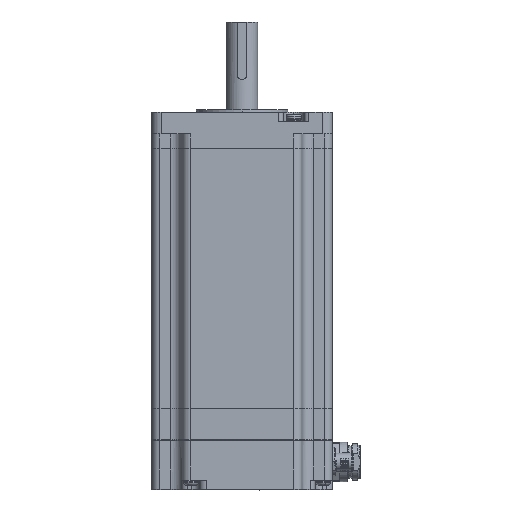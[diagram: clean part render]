
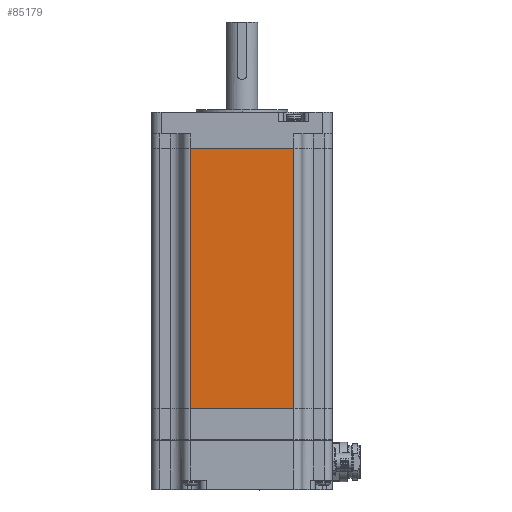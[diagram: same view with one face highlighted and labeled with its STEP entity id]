
A CAD part, left-side view. The second image highlights one B-rep face of the part: STEP entity #85179.
In plain terms, the highlighted planar face has unit normal (-1, 0, 0).
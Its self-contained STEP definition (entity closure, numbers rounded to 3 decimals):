
#3808 = CARTESIAN_POINT ( 'NONE',  ( -75.826, -12.266, -79.21 ) ) ;
#6687 = EDGE_LOOP ( 'NONE', ( #42699, #85521, #9303, #100460 ) ) ;
#9154 = DIRECTION ( 'NONE',  ( 0., -1., 0. ) ) ;
#9169 = CARTESIAN_POINT ( 'NONE',  ( -75.826, 50.734, 79.21 ) ) ;
#9303 = ORIENTED_EDGE ( 'NONE', *, *, #91972, .T. ) ;
#10758 = CARTESIAN_POINT ( 'NONE',  ( -75.826, 50.734, -79.21 ) ) ;
#14233 = LINE ( 'NONE', #72521, #26903 ) ;
#18341 = LINE ( 'NONE', #66958, #22016 ) ;
#22016 = VECTOR ( 'NONE', #92337, 1000. ) ;
#25804 = EDGE_CURVE ( 'NONE', #96664, #70680, #18341, .T. ) ;
#26898 = VECTOR ( 'NONE', #9154, 1000. ) ;
#26903 = VECTOR ( 'NONE', #71999, 1000. ) ;
#27998 = VECTOR ( 'NONE', #52365, 1000. ) ;
#41563 = AXIS2_PLACEMENT_3D ( 'NONE', #94107, #87041, #87579 ) ;
#42699 = ORIENTED_EDGE ( 'NONE', *, *, #62800, .F. ) ;
#43255 = FACE_OUTER_BOUND ( 'NONE', #6687, .T. ) ;
#52365 = DIRECTION ( 'NONE',  ( 0., 0., 1. ) ) ;
#52413 = CARTESIAN_POINT ( 'NONE',  ( -75.826, -12.266, -79.21 ) ) ;
#57931 = PLANE ( 'NONE',  #41563 ) ;
#60303 = CARTESIAN_POINT ( 'NONE',  ( -75.826, -12.266, 79.21 ) ) ;
#61064 = LINE ( 'NONE', #3808, #27998 ) ;
#62800 = EDGE_CURVE ( 'NONE', #70680, #90960, #99940, .T. ) ;
#66958 = CARTESIAN_POINT ( 'NONE',  ( -75.826, 50.734, -79.21 ) ) ;
#70680 = VERTEX_POINT ( 'NONE', #9169 ) ;
#71999 = DIRECTION ( 'NONE',  ( 0., -1., 0. ) ) ;
#72521 = CARTESIAN_POINT ( 'NONE',  ( -75.826, 50.734, -79.21 ) ) ;
#73777 = EDGE_CURVE ( 'NONE', #89902, #90960, #61064, .T. ) ;
#77133 = CARTESIAN_POINT ( 'NONE',  ( -75.826, 50.734, 79.21 ) ) ;
#85179 = ADVANCED_FACE ( 'NONE', ( #43255 ), #57931, .T. ) ;
#85521 = ORIENTED_EDGE ( 'NONE', *, *, #25804, .F. ) ;
#87041 = DIRECTION ( 'NONE',  ( -1., 0., 0. ) ) ;
#87579 = DIRECTION ( 'NONE',  ( 0., -1., 0. ) ) ;
#89902 = VERTEX_POINT ( 'NONE', #52413 ) ;
#90960 = VERTEX_POINT ( 'NONE', #60303 ) ;
#91972 = EDGE_CURVE ( 'NONE', #96664, #89902, #14233, .T. ) ;
#92337 = DIRECTION ( 'NONE',  ( 0., 0., 1. ) ) ;
#94107 = CARTESIAN_POINT ( 'NONE',  ( -75.826, 50.734, -79.21 ) ) ;
#96664 = VERTEX_POINT ( 'NONE', #10758 ) ;
#99940 = LINE ( 'NONE', #77133, #26898 ) ;
#100460 = ORIENTED_EDGE ( 'NONE', *, *, #73777, .T. ) ;
